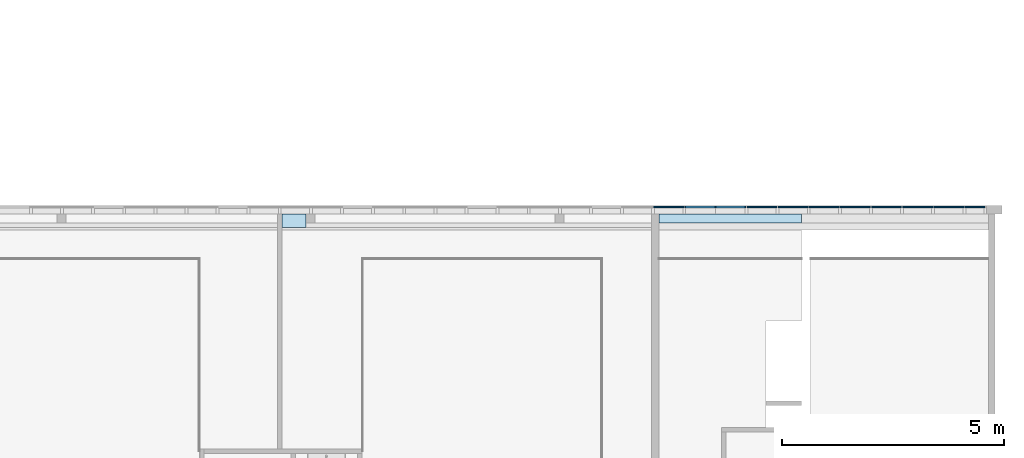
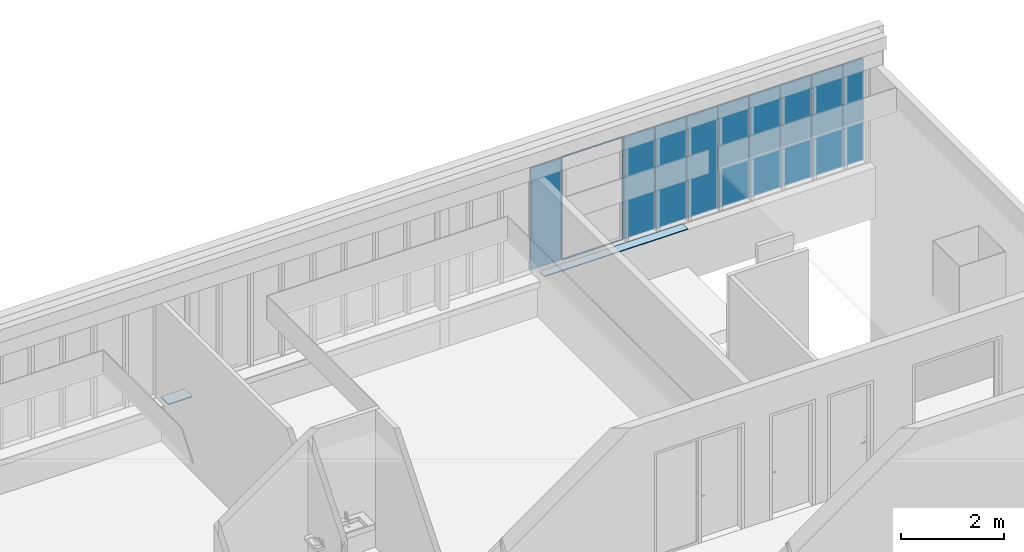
# One storey, part 25 of 87: 11 plates, 2 slabs, 1 element without a shape of its own.
"""IFC2X3 building model written with IfcOpenShell, lengths in centimetres."""

from ifc_helpers import new_model, entity, si_unit, converted_unit, derived_unit, direction, frame, frame_2d, origin, origin_2d_with_axis, place, context, subcontext, project, spatial, rectangle, extrude, faceted_brep, source, transform, mapped, material, layer, layer_set, layer_usage, type_object, type_shapes, element, aggregate, save


model = new_model("IFC2X3")

# Units and contexts
model_context = context("Model", 3, precision=0.001, world=origin(), true_north=direction((6.12303176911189e-17, 1.0)))
body_context = subcontext(model_context, "Body", "Model", "MODEL_VIEW")
ifc_project = project(units=[si_unit("LENGTHUNIT", "METRE", prefix="CENTI"), si_unit("AREAUNIT", "SQUARE_METRE"), si_unit("VOLUMEUNIT", "CUBIC_METRE"), converted_unit("PLANEANGLEUNIT", "DEGREE", entity("IfcRatioMeasure", 0.0174532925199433), si_unit("PLANEANGLEUNIT", "RADIAN"), dimensions=[0, 0, 0, 0, 0, 0, 0]), si_unit("MASSUNIT", "GRAM", prefix="KILO"), derived_unit("MASSDENSITYUNIT", [(si_unit("MASSUNIT", "GRAM", prefix="KILO"), 1), (si_unit("LENGTHUNIT", "METRE"), -3)]), si_unit("TIMEUNIT", "SECOND"), si_unit("FREQUENCYUNIT", "HERTZ"), si_unit("THERMODYNAMICTEMPERATUREUNIT", "DEGREE_CELSIUS"), derived_unit("THERMALTRANSMITTANCEUNIT", [(si_unit("MASSUNIT", "GRAM", prefix="KILO"), 1), (si_unit("THERMODYNAMICTEMPERATUREUNIT", "KELVIN"), -1), (si_unit("TIMEUNIT", "SECOND"), -3)]), derived_unit("VOLUMETRICFLOWRATEUNIT", [(si_unit("LENGTHUNIT", "METRE"), 3), (si_unit("TIMEUNIT", "SECOND"), -1)]), si_unit("ELECTRICCURRENTUNIT", "AMPERE"), si_unit("ELECTRICVOLTAGEUNIT", "VOLT"), si_unit("POWERUNIT", "WATT"), si_unit("FORCEUNIT", "NEWTON", prefix="KILO"), si_unit("ILLUMINANCEUNIT", "LUX"), si_unit("LUMINOUSFLUXUNIT", "LUMEN"), si_unit("LUMINOUSINTENSITYUNIT", "CANDELA"), derived_unit("USERDEFINED", [(si_unit("MASSUNIT", "GRAM", prefix="KILO"), -1), (si_unit("LENGTHUNIT", "METRE"), -2), (si_unit("TIMEUNIT", "SECOND"), 3), (si_unit("LUMINOUSFLUXUNIT", "LUMEN"), 1)]), derived_unit("LINEARVELOCITYUNIT", [(si_unit("LENGTHUNIT", "METRE"), 1), (si_unit("TIMEUNIT", "SECOND"), -1)]), si_unit("PRESSUREUNIT", "PASCAL"), derived_unit("USERDEFINED", [(si_unit("LENGTHUNIT", "METRE"), -2), (si_unit("MASSUNIT", "GRAM", prefix="KILO"), 1), (si_unit("TIMEUNIT", "SECOND"), -2)])], contexts=[model_context])

# Site, building, storey
site_placement = place(None, frame((-2781.94577612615, 7442.24238424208, 0.0)))
site = spatial("IfcSite", under=ifc_project, at=site_placement, Name="Default", CompositionType="ELEMENT")
building_placement = place(site_placement, origin())
building = spatial("IfcBuilding", under=site, at=building_placement, CompositionType="ELEMENT")
storey_placement = place(building_placement, frame((0.0, 0.0, 774.0)))
storey = spatial("IfcBuildingStorey", under=building, at=storey_placement, Name="TR - N02 - ARCH", CompositionType="ELEMENT", Elevation=774.0)

# Curtain wall, plates
curtain_wall_type = type_object("IfcCurtainWallType", Name="Mur-rideau:07 - mur rideau trame 70cm", PredefinedType="NOTDEFINED")
curtain_wall_placement = place(storey_placement, frame((0.0, 0.0, -774.0)))
curtain_wall = element("IfcCurtainWall", 1, at=curtain_wall_placement, inside=storey, type_object=curtain_wall_type, Name="Mur-rideau:07 - mur rideau trame 70cm", ObjectType="Mur-rideau:07 - mur rideau trame 70cm")
ifc_material_1 = material(Name="Verre")
ifc_layer_1 = layer(ifc_material_1, 4.0)
ifc_layer_set_1 = layer_set([ifc_layer_1], Name="Panneau système:Vitré")
plate_type_1 = type_object("IfcPlateType", Name="Vitré", PredefinedType="CURTAIN_PANEL", material=ifc_layer_set_1)
shared_shape_1 = source(origin(), body_context, "Body", "Brep", [
    faceted_brep([(34.5656249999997, -2.0, 0.0), (-32.1843749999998, -2.0, 0.0), (-32.1843749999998, -2.0, 244.2375), (33.6968749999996, -2.0, 244.2375), (33.6968749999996, -2.0, 242.5), (-34.5656249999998, -2.0, 242.5), (-34.5656249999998, -2.0, 1.73749999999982), (34.5656249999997, -2.0, 1.73749999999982), (34.5656249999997, 2.0, 0.0), (34.5656249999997, 2.0, 1.73749999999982), (-34.5656249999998, 2.0, 1.73749999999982), (-34.5656249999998, 2.0, 242.5), (33.6968749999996, 2.0, 242.5), (33.6968749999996, 2.0, 244.2375), (-32.1843749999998, 2.0, 244.2375), (-32.1843749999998, 2.0, 0.0)], [[[0, 1, 2, 3, 4, 5, 6, 7]], [[8, 9, 10, 11, 12, 13, 14, 15]], [[1, 0, 8, 15]], [[2, 1, 15, 14]], [[3, 2, 14, 13]], [[4, 3, 13, 12]], [[5, 4, 12, 11]], [[6, 5, 11, 10]], [[7, 6, 10, 9]], [[0, 7, 9, 8]]]),
])
type_shapes(plate_type_1, [shared_shape_1])
plate_1_placement = place(curtain_wall_placement, frame((-1073.86550784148, -1073.7999999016, 859.88125)))
plate_1 = element("IfcPlate", 2, at=plate_1_placement, type_object=plate_type_1, material=ifc_material_1, Name="Panneau système:Vitré", ObjectType="Panneau système:Vitré", context=body_context, shape_type="MappedRepresentation", body=[
    mapped(shared_shape_1, transform((0.0, 0.0, 0.0), scale=1.0)),
])
plate_type_2 = type_object("IfcPlateType", Name="Vitré", PredefinedType="CURTAIN_PANEL", material=ifc_layer_set_1)
shared_shape_2 = source(origin(), body_context, "Body", "Brep", [
    faceted_brep([(32.1843750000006, -2.0, 0.0), (-34.5656249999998, -2.0, 0.0), (-34.5656249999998, -2.0, 1.73749999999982), (34.5656250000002, -2.0, 1.73749999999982), (34.5656250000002, -2.0, 242.5), (-33.6968749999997, -2.0, 242.5), (-33.6968749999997, -2.0, 244.2375), (32.1843750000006, -2.0, 244.2375), (32.1843750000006, 2.0, 0.0), (32.1843750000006, 2.0, 244.2375), (-33.6968749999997, 2.0, 244.2375), (-33.6968749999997, 2.0, 242.5), (34.5656250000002, 2.0, 242.5), (34.5656250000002, 2.0, 1.73749999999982), (-34.5656249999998, 2.0, 1.73749999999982), (-34.5656249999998, 2.0, 0.0)], [[[0, 1, 2, 3, 4, 5, 6, 7]], [[8, 9, 10, 11, 12, 13, 14, 15]], [[1, 0, 8, 15]], [[2, 1, 15, 14]], [[3, 2, 14, 13]], [[4, 3, 13, 12]], [[5, 4, 12, 11]], [[6, 5, 11, 10]], [[7, 6, 10, 9]], [[0, 7, 9, 8]]]),
])
type_shapes(plate_type_2, [shared_shape_2])
plate_2_placement = place(curtain_wall_placement, frame((-1004.73425784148, -1073.7999999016, 859.88125)))
plate_2 = element("IfcPlate", 3, at=plate_2_placement, type_object=plate_type_2, material=ifc_material_1, Name="Panneau système:Vitré", ObjectType="Panneau système:Vitré", context=body_context, shape_type="MappedRepresentation", body=[
    mapped(shared_shape_2, transform((0.0, 0.0, 0.0), scale=1.0)),
])
ifc_layer_usage_1 = layer_usage(ifc_layer_set_1, "AXIS3", "POSITIVE", 0.0)
plate_type_3 = type_object("IfcPlateType", Name="Vitré", PredefinedType="CURTAIN_PANEL", material=ifc_layer_set_1)
shared_shape_3 = source(origin(), body_context, "Body", "SweptSolid", [
    extrude(rectangle(XDim=4.0, YDim=68.2624999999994, at=origin_2d_with_axis()), frame((0.0, 0.0, 0.0), z_axis=(0.0, 0.0, 1.0), x_axis=(0.0, 1.0, 0.0)), (0.0, 0.0, 1.0), 240.7625),
])
type_shapes(plate_type_3, [shared_shape_3])
plate_3_placement = place(curtain_wall_placement, frame((-1144.29988284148, -1073.7999999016, 861.61875)))
plate_3 = element("IfcPlate", 4, at=plate_3_placement, type_object=plate_type_3, material=ifc_layer_usage_1, Name="Panneau système:Vitré", ObjectType="Panneau système:Vitré", context=body_context, shape_type="MappedRepresentation", body=[
    mapped(shared_shape_3, transform((0.0, 0.0, 0.0), scale=1.0)),
])
ifc_layer_usage_2 = layer_usage(ifc_layer_set_1, "AXIS3", "POSITIVE", 0.0)
plate_4_placement = place(curtain_wall_placement, frame((-934.29988284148, -1073.7999999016, 861.61875)))
plate_4 = element("IfcPlate", 5, at=plate_4_placement, type_object=plate_type_3, material=ifc_layer_usage_2, Name="Panneau système:Vitré", ObjectType="Panneau système:Vitré", context=body_context, shape_type="MappedRepresentation", body=[
    mapped(shared_shape_3, transform((0.0, 0.0, 0.0), scale=1.0)),
])
ifc_layer_usage_3 = layer_usage(ifc_layer_set_1, "AXIS3", "POSITIVE", 0.0)
plate_5_placement = place(curtain_wall_placement, frame((-864.29988284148, -1073.7999999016, 861.61875)))
plate_5 = element("IfcPlate", 6, at=plate_5_placement, type_object=plate_type_3, material=ifc_layer_usage_3, Name="Panneau système:Vitré", ObjectType="Panneau système:Vitré", context=body_context, shape_type="MappedRepresentation", body=[
    mapped(shared_shape_3, transform((0.0, 0.0, 0.0), scale=1.0)),
])
ifc_layer_usage_4 = layer_usage(ifc_layer_set_1, "AXIS3", "POSITIVE", 0.0)
plate_6_placement = place(curtain_wall_placement, frame((-794.299882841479, -1073.79999990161, 861.61875)))
plate_6 = element("IfcPlate", 7, at=plate_6_placement, type_object=plate_type_3, material=ifc_layer_usage_4, Name="Panneau système:Vitré", ObjectType="Panneau système:Vitré", context=body_context, shape_type="MappedRepresentation", body=[
    mapped(shared_shape_3, transform((0.0, 0.0, 0.0), scale=1.0)),
])
ifc_layer_usage_5 = layer_usage(ifc_layer_set_1, "AXIS3", "POSITIVE", 0.0)
plate_7_placement = place(curtain_wall_placement, frame((-724.29988284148, -1073.79999990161, 861.61875)))
plate_7 = element("IfcPlate", 8, at=plate_7_placement, type_object=plate_type_3, material=ifc_layer_usage_5, Name="Panneau système:Vitré", ObjectType="Panneau système:Vitré", context=body_context, shape_type="MappedRepresentation", body=[
    mapped(shared_shape_3, transform((0.0, 0.0, 0.0), scale=1.0)),
])
ifc_layer_usage_6 = layer_usage(ifc_layer_set_1, "AXIS3", "POSITIVE", 0.0)
plate_8_placement = place(curtain_wall_placement, frame((-654.299882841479, -1073.79999990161, 861.61875)))
plate_8 = element("IfcPlate", 9, at=plate_8_placement, type_object=plate_type_3, material=ifc_layer_usage_6, Name="Panneau système:Vitré", ObjectType="Panneau système:Vitré", context=body_context, shape_type="MappedRepresentation", body=[
    mapped(shared_shape_3, transform((0.0, 0.0, 0.0), scale=1.0)),
])
ifc_layer_usage_7 = layer_usage(ifc_layer_set_1, "AXIS3", "POSITIVE", 0.0)
plate_9_placement = place(curtain_wall_placement, frame((-584.299882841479, -1073.79999990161, 861.61875)))
plate_9 = element("IfcPlate", 10, at=plate_9_placement, type_object=plate_type_3, material=ifc_layer_usage_7, Name="Panneau système:Vitré", ObjectType="Panneau système:Vitré", context=body_context, shape_type="MappedRepresentation", body=[
    mapped(shared_shape_3, transform((0.0, 0.0, 0.0), scale=1.0)),
])
ifc_layer_usage_8 = layer_usage(ifc_layer_set_1, "AXIS3", "POSITIVE", 0.0)
plate_10_placement = place(curtain_wall_placement, frame((-514.299882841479, -1073.79999990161, 861.61875)))
plate_10 = element("IfcPlate", 11, at=plate_10_placement, type_object=plate_type_3, material=ifc_layer_usage_8, Name="Panneau système:Vitré", ObjectType="Panneau système:Vitré", context=body_context, shape_type="MappedRepresentation", body=[
    mapped(shared_shape_3, transform((0.0, 0.0, 0.0), scale=1.0)),
])
ifc_layer_usage_9 = layer_usage(ifc_layer_set_1, "AXIS3", "POSITIVE", 0.0)
plate_type_4 = type_object("IfcPlateType", Name="Vitré", PredefinedType="CURTAIN_PANEL", material=ifc_layer_set_1)
shared_shape_4 = source(origin(), body_context, "Body", "SweptSolid", [
    extrude(rectangle(XDim=4.0, YDim=45.3874999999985, at=origin_2d_with_axis()), frame((0.0, 0.0, 0.0), z_axis=(0.0, 0.0, 1.0), x_axis=(0.0, 1.0, 0.0)), (0.0, 0.0, 1.0), 240.7625),
])
type_shapes(plate_type_4, [shared_shape_4])
plate_11_placement = place(curtain_wall_placement, frame((-455.73738284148, -1073.79999990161, 861.61875)))
plate_11 = element("IfcPlate", 12, at=plate_11_placement, type_object=plate_type_4, material=ifc_layer_usage_9, Name="Panneau système:Vitré", ObjectType="Panneau système:Vitré", context=body_context, shape_type="MappedRepresentation", body=[
    mapped(shared_shape_4, transform((0.0, 0.0, 0.0), scale=1.0)),
])
aggregate(curtain_wall, [plate_3, plate_1, plate_2, plate_4, plate_5, plate_6, plate_7, plate_8, plate_9, plate_10, plate_11])

# Slabs
ifc_material_2 = material(Name="Bois tablettes")
ifc_layer_2 = layer(ifc_material_2, 2.0)
ifc_layer_set_2 = layer_set([ifc_layer_2], Name="Sol:02 - Tablette bois 2cm")
ifc_layer_usage_10 = layer_usage(ifc_layer_set_2, "AXIS3", "POSITIVE", 0.0)
slab_type_1 = type_object("IfcSlabType", Name="Sol:02 - Tablette bois 2cm", PredefinedType="FLOOR")
slab_1_placement = place(storey_placement, frame((-8394.19987766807, -1120.0, 88.0)))
element("IfcSlab", 13, at=slab_1_placement, inside=storey, type_object=slab_type_1, material=ifc_layer_usage_10, Name="Sol:02 - Tablette bois 2cm:8", ObjectType="Sol:02 - Tablette bois 2cm", PredefinedType="FLOOR", context=body_context, shape_type="SweptSolid", body=[
    extrude(rectangle(XDim=54.3000071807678, YDim=29.9999999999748, at=frame_2d((-2632.60000100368, -550.0), x_axis=(1.0, 0.0))), frame((3774.44999741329, 565.0, 2.0), z_axis=(0.0, 0.0, -1.0), x_axis=(-1.0, 0.0, 0.0)), (0.0, 0.0, 1.0), 1.99999999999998),
])
slab_type_2 = type_object("IfcSlabType", Name="Sol:02 - Tablette bois 2cm", PredefinedType="FLOOR", material=ifc_layer_set_2)
slab_2_placement = place(storey_placement, frame((-8394.19987766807, -1120.0, 88.0)))
element("IfcSlab", 14, at=slab_2_placement, inside=storey, type_object=slab_type_2, material=ifc_layer_usage_10, Name="Sol:02 - Tablette bois 2cm:10", ObjectType="Sol:02 - Tablette bois 2cm", PredefinedType="FLOOR", context=body_context, shape_type="SweptSolid", body=[
    extrude(rectangle(XDim=321.25, YDim=19.9999999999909, at=frame_2d((-3613.82499741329, -545.0), x_axis=(1.0, 0.0))), frame((3774.44999741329, 565.0, 2.0), z_axis=(0.0, 0.0, -1.0), x_axis=(-1.0, 0.0, 0.0)), (0.0, 0.0, 1.0), 1.99999999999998),
])

save(model, "model.ifc")
